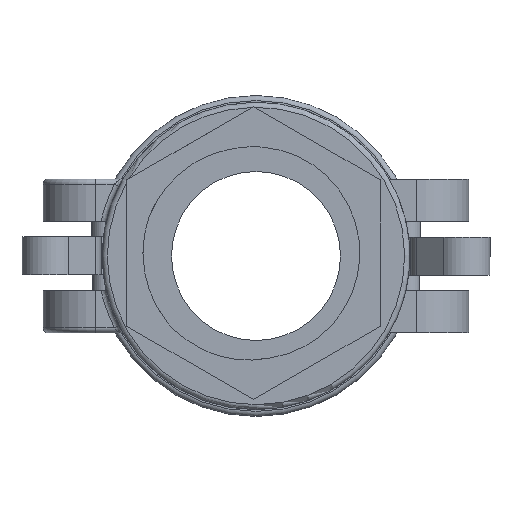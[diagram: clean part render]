
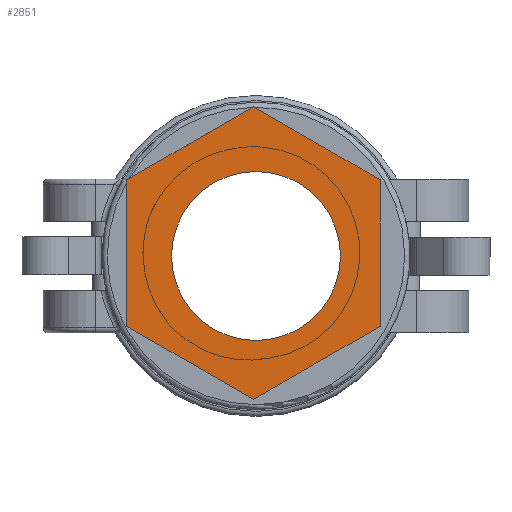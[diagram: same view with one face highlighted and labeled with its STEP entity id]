
A CAD part, left-side view. The second image highlights one B-rep face of the part: STEP entity #2851.
In plain terms, the highlighted planar face has unit normal (-1, 0, 0).
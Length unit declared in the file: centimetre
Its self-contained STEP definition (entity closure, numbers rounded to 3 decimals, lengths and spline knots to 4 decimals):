
#203=VECTOR('',#3396,1.);
#208=VECTOR('',#3402,1.);
#211=VECTOR('',#3406,1.);
#214=VECTOR('',#3410,1.);
#217=VECTOR('',#3414,1.);
#220=VECTOR('',#3418,1.);
#333=LINE('',#25012,#203);
#338=LINE('',#25023,#208);
#341=LINE('',#25029,#211);
#344=LINE('',#25035,#214);
#347=LINE('',#25041,#217);
#350=LINE('',#25047,#220);
#1054=VERTEX_POINT('',#3955);
#1120=VERTEX_POINT('',#25013);
#1121=VERTEX_POINT('',#25014);
#1125=VERTEX_POINT('',#25024);
#1127=VERTEX_POINT('',#25030);
#1129=VERTEX_POINT('',#25036);
#1131=VERTEX_POINT('',#25042);
#1268=CIRCLE('',#2981,1.27);
#1409=EDGE_CURVE('',#1054,#1054,#1268,.T.);
#1506=EDGE_CURVE('',#1120,#1121,#333,.T.);
#1511=EDGE_CURVE('',#1121,#1125,#338,.T.);
#1515=EDGE_CURVE('',#1125,#1127,#341,.T.);
#1518=EDGE_CURVE('',#1127,#1129,#344,.T.);
#1521=EDGE_CURVE('',#1129,#1131,#347,.T.);
#1524=EDGE_CURVE('',#1131,#1120,#350,.T.);
#2032=ORIENTED_EDGE('',*,*,#1409,.T.);
#2033=ORIENTED_EDGE('',*,*,#1506,.F.);
#2034=ORIENTED_EDGE('',*,*,#1524,.F.);
#2035=ORIENTED_EDGE('',*,*,#1521,.F.);
#2036=ORIENTED_EDGE('',*,*,#1518,.F.);
#2037=ORIENTED_EDGE('',*,*,#1515,.F.);
#2038=ORIENTED_EDGE('',*,*,#1511,.F.);
#2461=EDGE_LOOP('',(#2032));
#2462=EDGE_LOOP('',(#2033,#2034,#2035,#2036,#2037,#2038));
#2666=FACE_BOUND('',#2461,.T.);
#2667=FACE_BOUND('',#2462,.T.);
#2851=ADVANCED_FACE('',(#2666,#2667),#26057,.F.);
#2981=AXIS2_PLACEMENT_3D('',#3954,#3288,#3289);
#3028=AXIS2_PLACEMENT_3D('',#25049,#3420,$);
#3288=DIRECTION('',(1.,0.,0.));
#3289=DIRECTION('',(0.,0.,-1.27));
#3396=DIRECTION('',(0.,0.,1.));
#3402=DIRECTION('',(0.,-0.866,0.5));
#3406=DIRECTION('',(0.,-0.866,-0.5));
#3410=DIRECTION('',(0.,0.,-1.));
#3414=DIRECTION('',(0.,0.866,-0.5));
#3418=DIRECTION('',(0.,0.866,0.5));
#3420=DIRECTION('',(1.,0.,0.));
#3954=CARTESIAN_POINT('',(-6.35,0.,0.));
#3955=CARTESIAN_POINT('',(-6.35,0.,1.27));
#25012=CARTESIAN_POINT('',(-6.35,1.9431,1.1439));
#25013=CARTESIAN_POINT('',(-6.35,1.9431,-1.0558));
#25014=CARTESIAN_POINT('',(-6.35,1.9431,1.1439));
#25023=CARTESIAN_POINT('',(-6.35,0.0381,2.2438));
#25024=CARTESIAN_POINT('',(-6.35,0.0381,2.2438));
#25029=CARTESIAN_POINT('',(-6.35,-1.8669,1.1439));
#25030=CARTESIAN_POINT('',(-6.35,-1.8669,1.1439));
#25035=CARTESIAN_POINT('',(-6.35,-1.8669,-1.0558));
#25036=CARTESIAN_POINT('',(-6.35,-1.8669,-1.0558));
#25041=CARTESIAN_POINT('',(-6.35,0.0381,-2.1556));
#25042=CARTESIAN_POINT('',(-6.35,0.0381,-2.1556));
#25047=CARTESIAN_POINT('',(-6.35,1.9431,-1.0558));
#25049=CARTESIAN_POINT('',(-6.35,0.0381,0.0441));
#26057=PLANE('',#3028);
